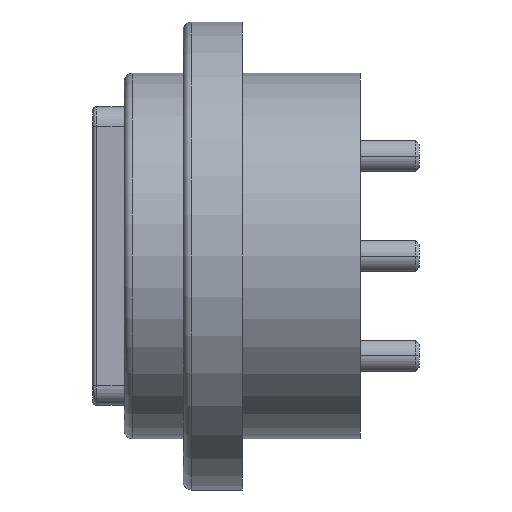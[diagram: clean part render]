
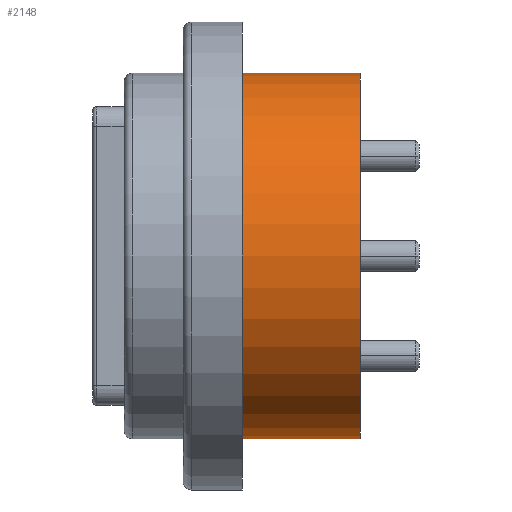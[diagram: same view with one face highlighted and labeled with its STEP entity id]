
A CAD part, left-side view. The second image highlights one B-rep face of the part: STEP entity #2148.
In plain terms, the highlighted cylindrical face has radius 4.65 mm (diameter 9.3 mm), a partial arc.
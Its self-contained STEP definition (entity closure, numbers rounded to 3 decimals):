
#19=CARTESIAN_POINT('',(-7.45,0.,0.));
#20=DIRECTION('',(0.,-1.,0.));
#21=DIRECTION('',(0.,0.,1.));
#22=AXIS2_PLACEMENT_3D('',#19,#20,#21);
#574=CARTESIAN_POINT('',(-7.45,-3.,0.));
#575=DIRECTION('',(0.,-1.,0.));
#576=DIRECTION('',(0.,0.,1.));
#577=AXIS2_PLACEMENT_3D('',#574,#575,#576);
#716=DIRECTION('',(0.,-1.,0.));
#717=VECTOR('',#716,3.);
#718=CARTESIAN_POINT('',(-7.45,0.,4.65));
#719=LINE('',#718,#717);
#728=DIRECTION('',(0.,-1.,0.));
#729=VECTOR('',#728,3.);
#730=CARTESIAN_POINT('',(-7.45,0.,-4.65));
#731=LINE('',#730,#729);
#1033=CARTESIAN_POINT('',(-7.45,-3.,4.65));
#1034=CARTESIAN_POINT('',(-7.45,-3.,-4.65));
#1035=VERTEX_POINT('',#1033);
#1036=VERTEX_POINT('',#1034);
#1041=CARTESIAN_POINT('',(-7.45,0.,4.65));
#1042=CARTESIAN_POINT('',(-7.45,0.,-4.65));
#1043=VERTEX_POINT('',#1041);
#1044=VERTEX_POINT('',#1042);
#2135=CARTESIAN_POINT('',(-7.45,0.,0.));
#2136=DIRECTION('',(0.,-1.,0.));
#2137=DIRECTION('',(1.,0.,0.));
#2138=AXIS2_PLACEMENT_3D('',#2135,#2136,#2137);
#2139=CYLINDRICAL_SURFACE('',#2138,4.65);
#2140=ORIENTED_EDGE('',*,*,#1320,.F.);
#2142=ORIENTED_EDGE('',*,*,#2141,.T.);
#2143=ORIENTED_EDGE('',*,*,#2051,.T.);
#2145=ORIENTED_EDGE('',*,*,#2144,.F.);
#2146=EDGE_LOOP('',(#2140,#2142,#2143,#2145));
#2147=FACE_OUTER_BOUND('',#2146,.F.);
#23=CIRCLE('',#22,4.65);
#578=CIRCLE('',#577,4.65);
#1320=EDGE_CURVE('',#1043,#1044,#23,.T.);
#2051=EDGE_CURVE('',#1035,#1036,#578,.T.);
#2141=EDGE_CURVE('',#1043,#1035,#719,.T.);
#2144=EDGE_CURVE('',#1044,#1036,#731,.T.);
#2148=ADVANCED_FACE('',(#2147),#2139,.T.);
